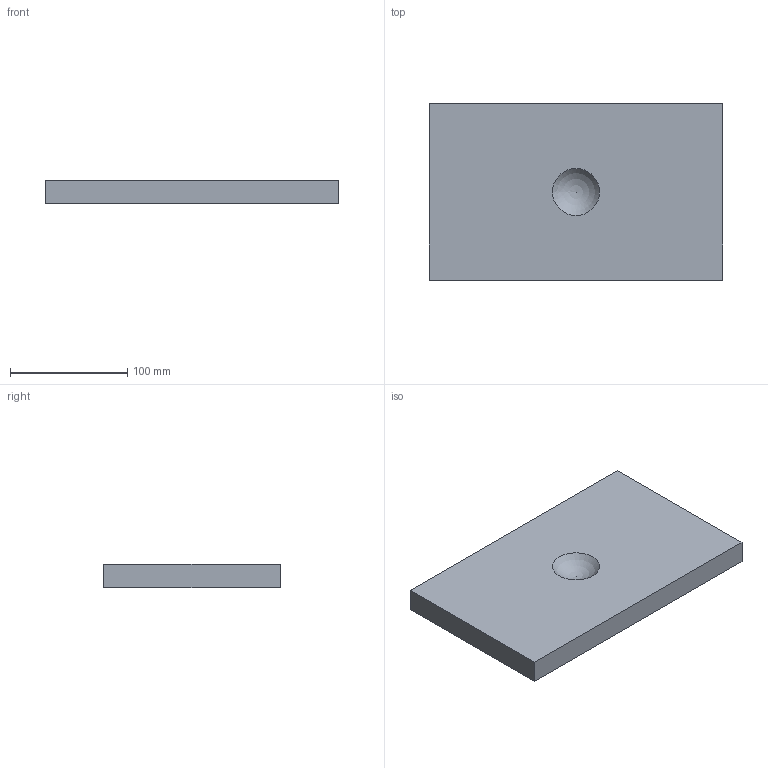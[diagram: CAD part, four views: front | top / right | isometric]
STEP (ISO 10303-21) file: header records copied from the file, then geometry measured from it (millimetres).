
FILE_DESCRIPTION(/* description */ (''),/* implementation_level */ '2;1');
FILE_NAME(/* name */ 'C:\Users\Lewke\Documents\Spaces\Lewke\Werkstücke\Werkstück1_UseCase3.stp',/* time_stamp */ '2022-05-09T15:13:17+02:00',/* author */ ('Lewke'),/* organization */ (''),/* preprocessor_version */ 'ST-DEVELOPER v18.1',/* originating_system */ 'Autodesk Inventor 2021',/* authorisation */ '');
FILE_SCHEMA (('AUTOMOTIVE_DESIGN { 1 0 10303 214 3 1 1 }'));
Length unit declared in the file: millimetre
Products named in the file (1): Werkstück1_UseCase3
Bounding box: 250 x 150 x 20 mm (x, y, z)
Volume: 743193.2 mm3; surface area: 91314.2 mm2
Topology: 1 solids, 1 shells, 7 faces, 15 edges, 10 vertices
Faces by surface type: plane 6, sphere 1
Entity records: 227 total; most frequent: DIRECTION 32, CARTESIAN_POINT 32, ORIENTED_EDGE 28, EDGE_CURVE 14, LINE 12, VECTOR 12, VERTEX_POINT 10, AXIS2_PLACEMENT_3D 10
